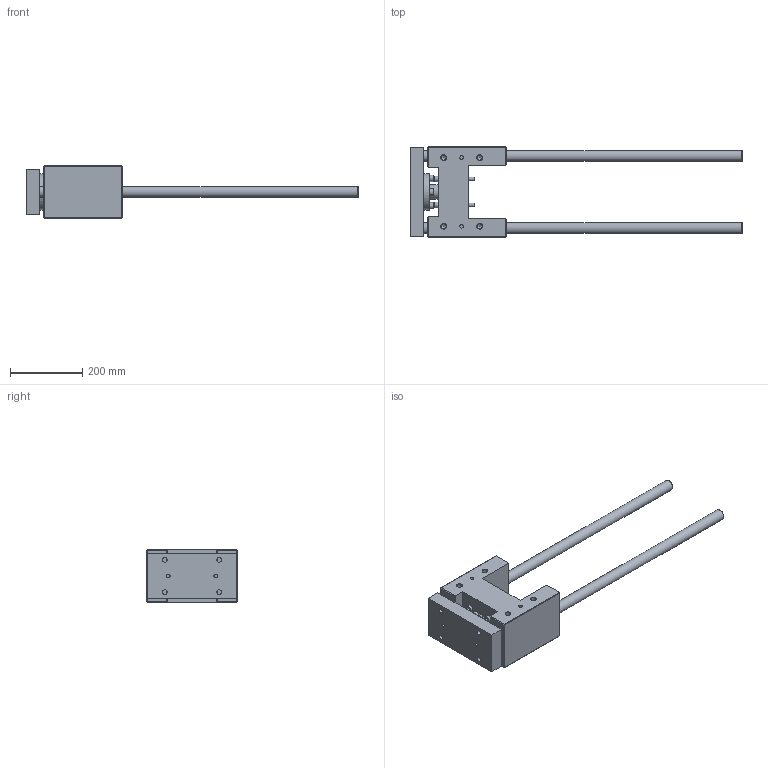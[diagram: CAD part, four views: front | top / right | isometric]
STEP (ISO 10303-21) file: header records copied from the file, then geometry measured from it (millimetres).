
FILE_DESCRIPTION( ( 'STEP AP214' ), '1' );
FILE_NAME( 'U:/Etudes/Top Solid/BIBLIO 3D AVM/TOP/PNEUMATIQUE/GUIDAGES/Type 32 (en H)/R_Renforcée/328R9230.step', '2005-05-27T09:17:02', ( ' ' ), ( ' ' ), 'XStep 1.0', ' ', ' ' );
FILE_SCHEMA( ( 'automotive_design' ) );
Length unit declared in the file: metre
Products named in the file (2): 1; 2
Bounding box: 920 x 252 x 148 mm (x, y, z)
Volume: 7239580.5 mm3; surface area: 628417.2 mm2
Topology: 2 solids, 7 shells, 239 faces, 527 edges, 341 vertices
Faces by surface type: plane 149, cylinder 69, cone 21
Full cylindrical faces by diameter (mm): 10 x12, 10.106 x4, 11 x4, 12 x8, 13 x8, 13.835 x8, 16 x4, 18 x4, 18.376 x2, 20 x4, 30 x4, 39 x1, 42 x1, 45 x1, 57 x1, 60 x1, 65 x1, 100 x1
Entity records: 7933 total; most frequent: CARTESIAN_POINT 1201, DIRECTION 1000, ORIENTED_EDGE 786, EDGE_CURVE 393, EDGE_LOOP 392, AXIS2_PLACEMENT_3D 374, FACE_OUTER_BOUND 308, VERTEX_POINT 303
